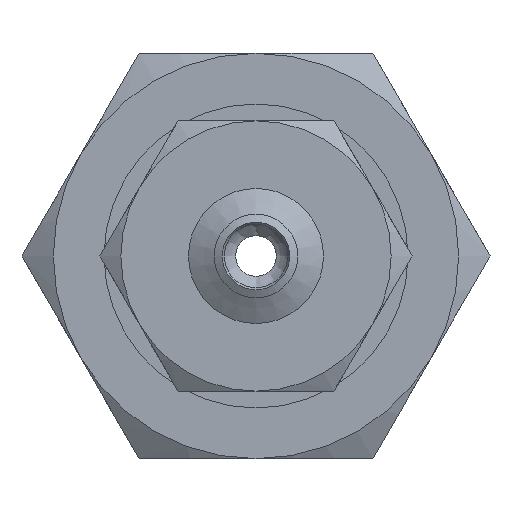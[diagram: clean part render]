
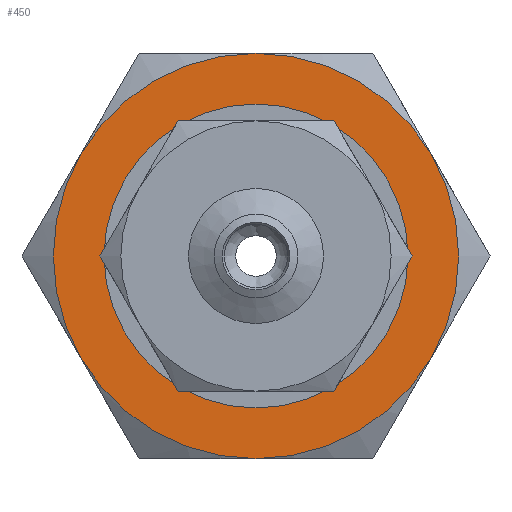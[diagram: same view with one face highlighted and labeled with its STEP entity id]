
A CAD part, front view. The second image highlights one B-rep face of the part: STEP entity #450.
In plain terms, the highlighted planar face has unit normal (0, -1, 0) as drawn and (-1, 0, 0) by its records, which use the part's own axes.
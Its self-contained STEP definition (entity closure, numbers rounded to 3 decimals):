
#450=ADVANCED_FACE('',(#618,#619),#620,.F.);
#618=FACE_BOUND('',#859,.T.);
#619=FACE_OUTER_BOUND('',#860,.T.);
#620=PLANE('',#861);
#859=EDGE_LOOP('',(#1381));
#860=EDGE_LOOP('',(#1382,#1383,#1384,#1385,#1386,#1387));
#861=AXIS2_PLACEMENT_3D('',#1388,#1389,#1390);
#1381=ORIENTED_EDGE('',*,*,#1773,.T.);
#1382=ORIENTED_EDGE('',*,*,#1748,.F.);
#1383=ORIENTED_EDGE('',*,*,#1766,.F.);
#1384=ORIENTED_EDGE('',*,*,#1774,.F.);
#1385=ORIENTED_EDGE('',*,*,#1771,.F.);
#1386=ORIENTED_EDGE('',*,*,#1775,.F.);
#1387=ORIENTED_EDGE('',*,*,#1776,.F.);
#1388=CARTESIAN_POINT('',(0.,0.0,0.0));
#1389=DIRECTION('',(1.0,0.0,0.0));
#1390=DIRECTION('',(0.0,1.0,0.0));
#1748=EDGE_CURVE('',#1985,#1987,#1988,.T.);
#1766=EDGE_CURVE('',#2020,#1985,#2021,.T.);
#1771=EDGE_CURVE('',#2028,#2017,#2029,.T.);
#1773=EDGE_CURVE('',#2031,#2031,#2032,.T.);
#1774=EDGE_CURVE('',#2017,#2020,#2033,.T.);
#1775=EDGE_CURVE('',#2034,#2028,#2035,.T.);
#1776=EDGE_CURVE('',#1987,#2034,#2036,.T.);
#1985=VERTEX_POINT('',#2375);
#1987=VERTEX_POINT('',#2387);
#1988=CIRCLE('',#2388,6.0);
#2017=VERTEX_POINT('',#2511);
#2020=VERTEX_POINT('',#2534);
#2021=CIRCLE('',#2535,6.0);
#2028=VERTEX_POINT('',#2572);
#2029=CIRCLE('',#2573,6.0);
#2031=VERTEX_POINT('',#2585);
#2032=CIRCLE('',#2586,4.0);
#2033=CIRCLE('',#2587,6.0);
#2034=VERTEX_POINT('',#2588);
#2035=CIRCLE('',#2589,6.0);
#2036=CIRCLE('',#2590,6.0);
#2375=CARTESIAN_POINT('',(0.,5.196,-3.0));
#2387=CARTESIAN_POINT('',(0.,5.196,3.0));
#2388=AXIS2_PLACEMENT_3D('',#2902,#2903,#2904);
#2511=CARTESIAN_POINT('',(0.,-5.196,-3.0));
#2534=CARTESIAN_POINT('',(0.,0.0,-6.0));
#2535=AXIS2_PLACEMENT_3D('',#2915,#2916,#2917);
#2572=CARTESIAN_POINT('',(0.,-5.196,3.0));
#2573=AXIS2_PLACEMENT_3D('',#2921,#2922,#2923);
#2585=CARTESIAN_POINT('',(0.,0.0,-4.0));
#2586=AXIS2_PLACEMENT_3D('',#2924,#2925,#2926);
#2587=AXIS2_PLACEMENT_3D('',#2927,#2928,#2929);
#2588=CARTESIAN_POINT('',(0.,0.0,6.0));
#2589=AXIS2_PLACEMENT_3D('',#2930,#2931,#2932);
#2590=AXIS2_PLACEMENT_3D('',#2933,#2934,#2935);
#2902=CARTESIAN_POINT('',(0.,0.0,0.0));
#2903=DIRECTION('',(1.0,0.0,0.0));
#2904=DIRECTION('',(0.0,0.0,-1.0));
#2915=CARTESIAN_POINT('',(0.,0.0,0.0));
#2916=DIRECTION('',(1.0,0.0,0.0));
#2917=DIRECTION('',(0.0,0.0,-1.0));
#2921=CARTESIAN_POINT('',(0.,0.0,0.0));
#2922=DIRECTION('',(1.0,0.0,0.0));
#2923=DIRECTION('',(0.0,0.0,-1.0));
#2924=CARTESIAN_POINT('',(0.,0.0,0.0));
#2925=DIRECTION('',(1.0,0.0,0.0));
#2926=DIRECTION('',(0.0,0.0,-1.0));
#2927=CARTESIAN_POINT('',(0.,0.0,0.0));
#2928=DIRECTION('',(1.0,0.0,0.0));
#2929=DIRECTION('',(0.0,0.0,-1.0));
#2930=CARTESIAN_POINT('',(0.,0.0,0.0));
#2931=DIRECTION('',(1.0,0.0,0.0));
#2932=DIRECTION('',(0.0,0.0,-1.0));
#2933=CARTESIAN_POINT('',(0.,0.0,0.0));
#2934=DIRECTION('',(1.0,0.0,0.0));
#2935=DIRECTION('',(0.0,0.0,-1.0));
